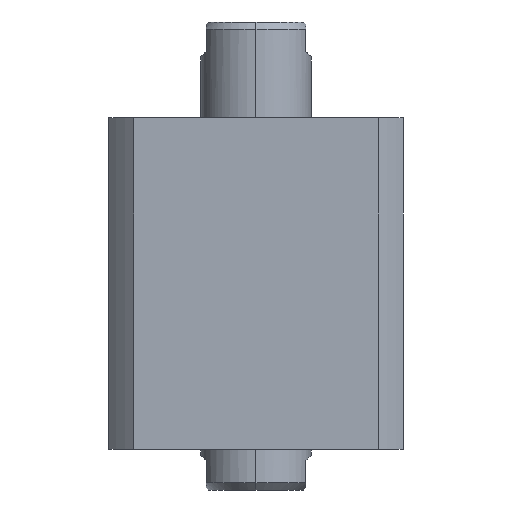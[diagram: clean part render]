
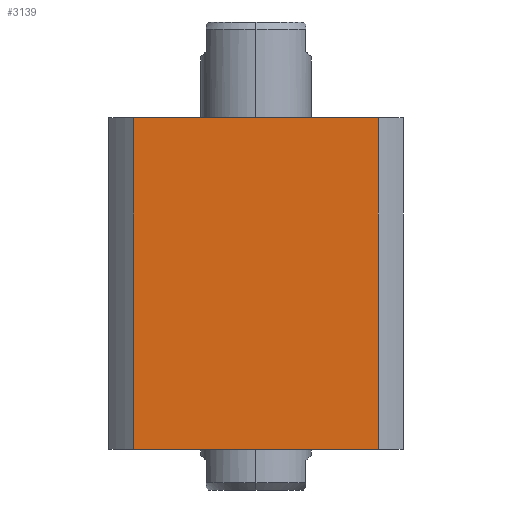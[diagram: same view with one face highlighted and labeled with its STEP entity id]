
A CAD part, left-side view. The second image highlights one B-rep face of the part: STEP entity #3139.
In plain terms, the highlighted planar face has unit normal (-1, 0, 0).
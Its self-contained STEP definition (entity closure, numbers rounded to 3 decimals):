
#132 = EDGE_LOOP ( 'NONE', ( #9398, #8844, #4036, #6871 ) ) ;
#161 = LINE ( 'NONE', #2959, #6707 ) ;
#1303 = EDGE_CURVE ( 'NONE', #1372, #9227, #161, .T. ) ;
#1316 = LINE ( 'NONE', #6642, #2383 ) ;
#1372 = VERTEX_POINT ( 'NONE', #6916 ) ;
#1571 = LINE ( 'NONE', #9541, #9377 ) ;
#1844 = CARTESIAN_POINT ( 'NONE',  ( -40., 33.226, -45. ) ) ;
#2383 = VECTOR ( 'NONE', #7448, 1000. ) ;
#2959 = CARTESIAN_POINT ( 'NONE',  ( -40., 33.226, 45. ) ) ;
#3139 = ADVANCED_FACE ( 'NONE', ( #7964 ), #8576, .F. ) ;
#3279 = DIRECTION ( 'NONE',  ( 1., 0., 0. ) ) ;
#3390 = EDGE_CURVE ( 'NONE', #1372, #4121, #5130, .T. ) ;
#3702 = EDGE_CURVE ( 'NONE', #9227, #4585, #1316, .T. ) ;
#4011 = CARTESIAN_POINT ( 'NONE',  ( -40., 33.226, 45. ) ) ;
#4036 = ORIENTED_EDGE ( 'NONE', *, *, #1303, .F. ) ;
#4121 = VERTEX_POINT ( 'NONE', #1844 ) ;
#4585 = VERTEX_POINT ( 'NONE', #6604 ) ;
#4783 = DIRECTION ( 'NONE',  ( 0., 0., -1. ) ) ;
#5023 = DIRECTION ( 'NONE',  ( 0., -1., 0. ) ) ;
#5130 = LINE ( 'NONE', #4011, #5481 ) ;
#5481 = VECTOR ( 'NONE', #4783, 1000. ) ;
#6568 = AXIS2_PLACEMENT_3D ( 'NONE', #9229, #3279, #8457 ) ;
#6604 = CARTESIAN_POINT ( 'NONE',  ( -40., -33.226, -45. ) ) ;
#6642 = CARTESIAN_POINT ( 'NONE',  ( -40., -33.226, 45. ) ) ;
#6707 = VECTOR ( 'NONE', #8263, 1000. ) ;
#6871 = ORIENTED_EDGE ( 'NONE', *, *, #3390, .T. ) ;
#6916 = CARTESIAN_POINT ( 'NONE',  ( -40., 33.226, 45. ) ) ;
#7448 = DIRECTION ( 'NONE',  ( 0., 0., -1. ) ) ;
#7964 = FACE_OUTER_BOUND ( 'NONE', #132, .T. ) ;
#8263 = DIRECTION ( 'NONE',  ( 0., -1., 0. ) ) ;
#8443 = CARTESIAN_POINT ( 'NONE',  ( -40., -33.226, 45. ) ) ;
#8457 = DIRECTION ( 'NONE',  ( 0., 1., 0. ) ) ;
#8576 = PLANE ( 'NONE',  #6568 ) ;
#8844 = ORIENTED_EDGE ( 'NONE', *, *, #3702, .F. ) ;
#9227 = VERTEX_POINT ( 'NONE', #8443 ) ;
#9229 = CARTESIAN_POINT ( 'NONE',  ( -40., 33.226, 45. ) ) ;
#9377 = VECTOR ( 'NONE', #5023, 1000. ) ;
#9398 = ORIENTED_EDGE ( 'NONE', *, *, #9496, .T. ) ;
#9496 = EDGE_CURVE ( 'NONE', #4121, #4585, #1571, .T. ) ;
#9541 = CARTESIAN_POINT ( 'NONE',  ( -40., 33.226, -45. ) ) ;
